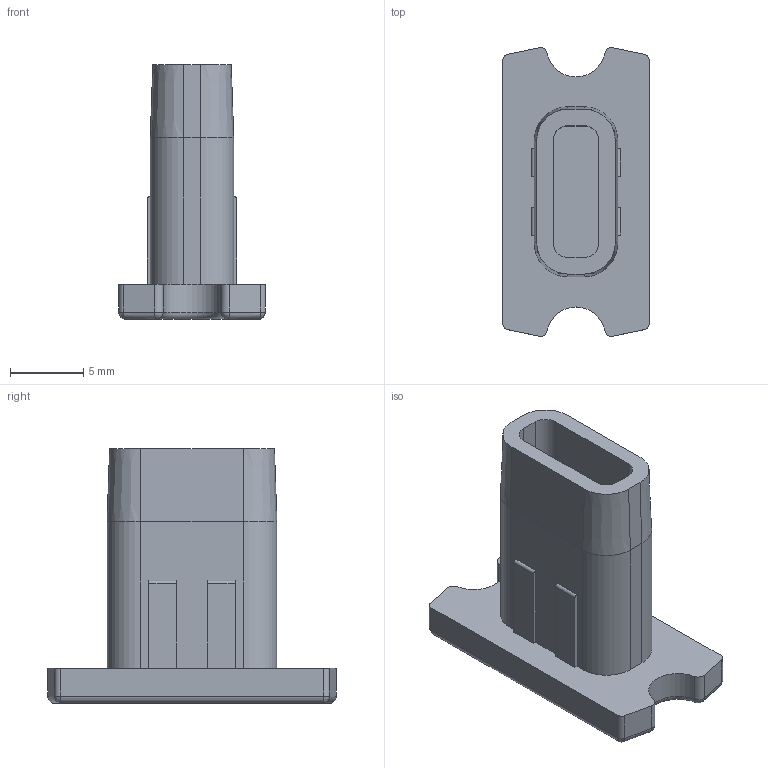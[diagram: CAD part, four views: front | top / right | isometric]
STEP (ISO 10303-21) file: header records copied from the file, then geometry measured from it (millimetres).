
FILE_DESCRIPTION (( 'STEP AP214' ), '1' );
FILE_NAME ('FGEC 10X20.step', '2017-04-05T07:37:00', ( '' ), ( '' ), 'SwSTEP 2.0', 'SolidWorks 2015', '' );
FILE_SCHEMA (( 'AUTOMOTIVE_DESIGN' ));
Length unit declared in the file: millimetre
Products named in the file (1): FGEC 10X20
Bounding box: 10 x 19.7 x 17.4 mm (x, y, z)
Volume: 946.4 mm3; surface area: 1294.3 mm2
Topology: 1 solids, 1 shells, 76 faces, 196 edges, 116 vertices
Faces by surface type: plane 34, cylinder 28, cone 4, bspline 4, sphere 4, torus 2
Entity records: 2324 total; most frequent: CARTESIAN_POINT 513, DIRECTION 380, ORIENTED_EDGE 368, EDGE_CURVE 184, AXIS2_PLACEMENT_3D 131, VECTOR 118, LINE 118, VERTEX_POINT 112
